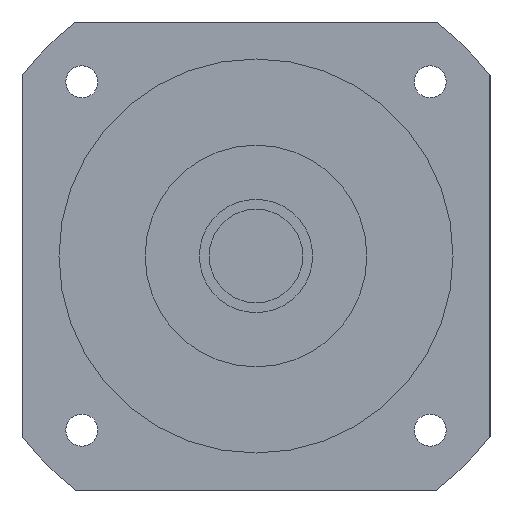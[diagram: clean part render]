
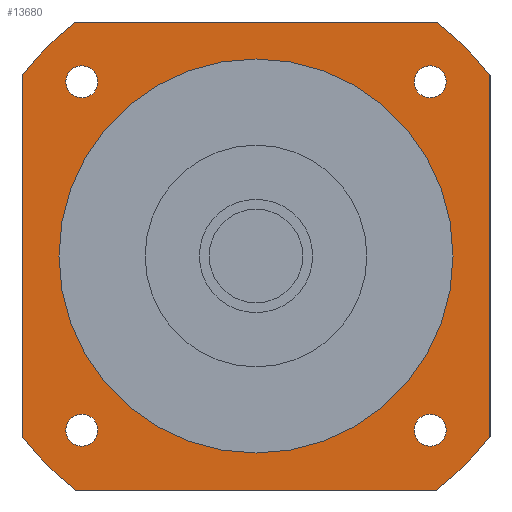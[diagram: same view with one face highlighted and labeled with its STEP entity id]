
A CAD part, left-side view. The second image highlights one B-rep face of the part: STEP entity #13680.
In plain terms, the highlighted planar face has unit normal (-1, 0, 0) as drawn and (0, 0, -1) by its records, which use the part's own axes.
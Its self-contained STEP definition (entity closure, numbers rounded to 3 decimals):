
#8870=CARTESIAN_POINT('',(47.5,36.657,-43.2));
#8880=VERTEX_POINT('',#8870);
#8930=CARTESIAN_POINT('',(47.5,47.5,-43.2));
#8940=DIRECTION('',(0.,-1.,0.));
#8950=VECTOR('',#8940,1000.);
#8960=LINE('',#8930,#8950);
#8970=CARTESIAN_POINT('',(47.5,-36.657,-43.2));
#8980=VERTEX_POINT('',#8970);
#8990=EDGE_CURVE('',#8880,#8980,#8960,.T.);
#9270=CARTESIAN_POINT('',(-36.657,47.5,-43.2));
#9280=VERTEX_POINT('',#9270);
#9460=CARTESIAN_POINT('',(-47.5,36.657,-43.2));
#9470=VERTEX_POINT('',#9460);
#9500=CARTESIAN_POINT('',(0.,0.,
-43.2));
#9510=DIRECTION('',(0.,0.,-1.));
#9520=DIRECTION('',(1.,0.,0.));
#9530=AXIS2_PLACEMENT_3D('',#9500,#9510,#9520);
#9540=CIRCLE('',#9530,60.);
#9550=EDGE_CURVE('',#9470,#9280,#9540,.T.);
#12200=CARTESIAN_POINT('',(-32.105,35.355,-43.2));
#12210=VERTEX_POINT('',#12200);
#12240=CARTESIAN_POINT('',(-35.355,35.355,-43.2));
#12250=DIRECTION('',(0.,0.,-1.));
#12260=DIRECTION('',(-1.,0.,0.));
#12270=AXIS2_PLACEMENT_3D('',#12240,#12250,#12260);
#12280=CIRCLE('',#12270,3.25);
#12290=CARTESIAN_POINT('',(-38.605,35.355,-43.2));
#12300=VERTEX_POINT('',#12290);
#12310=EDGE_CURVE('',#12300,#12210,#12280,.T.);
#12430=CARTESIAN_POINT('',(47.5,47.5,-43.2));
#12440=DIRECTION('',(0.,0.,-1.));
#12450=DIRECTION('',(1.,0.,0.));
#12460=AXIS2_PLACEMENT_3D('',#12430,#12440,#12450);
#12470=PLANE('',#12460);
#12480=ORIENTED_EDGE('',*,*,#12310,.F.);
#12490=EDGE_CURVE('',#12210,#12300,#12280,.T.);
#12500=ORIENTED_EDGE('',*,*,#12490,.F.);
#12510=EDGE_LOOP('',(#12500,#12480));
#12520=FACE_BOUND('',#12510,.T.);
#12530=CARTESIAN_POINT('',(35.355,35.355,-43.2));
#12540=DIRECTION('',(0.,0.,-1.));
#12550=DIRECTION('',(0.,1.,0.));
#12560=AXIS2_PLACEMENT_3D('',#12530,#12540,#12550);
#12570=CIRCLE('',#12560,3.25);
#12580=CARTESIAN_POINT('',(35.355,38.605,-43.2));
#12590=VERTEX_POINT('',#12580);
#12600=CARTESIAN_POINT('',(35.355,32.105,-43.2));
#12610=VERTEX_POINT('',#12600);
#12620=EDGE_CURVE('',#12590,#12610,#12570,.T.);
#12630=ORIENTED_EDGE('',*,*,#12620,.F.);
#12640=EDGE_CURVE('',#12610,#12590,#12570,.T.);
#12650=ORIENTED_EDGE('',*,*,#12640,.F.);
#12660=EDGE_LOOP('',(#12650,#12630));
#12670=FACE_BOUND('',#12660,.T.);
#12680=CARTESIAN_POINT('',(0.,0.,
-43.2));
#12690=DIRECTION('',(0.,0.,1.));
#12700=DIRECTION('',(0.,1.,0.));
#12710=AXIS2_PLACEMENT_3D('',#12680,#12690,#12700);
#12720=CIRCLE('',#12710,40.);
#12730=CARTESIAN_POINT('',(-40.,0.,-43.2));
#12740=VERTEX_POINT('',#12730);
#12750=CARTESIAN_POINT('',(40.,0.,-43.2));
#12760=VERTEX_POINT('',#12750);
#12770=EDGE_CURVE('',#12740,#12760,#12720,.T.);
#12780=ORIENTED_EDGE('',*,*,#12770,.T.);
#12790=CARTESIAN_POINT('',(0.,40.,-43.2));
#12800=VERTEX_POINT('',#12790);
#12810=EDGE_CURVE('',#12800,#12740,#12720,.T.);
#12820=ORIENTED_EDGE('',*,*,#12810,.T.);
#12830=EDGE_CURVE('',#12760,#12800,#12720,.T.);
#12840=ORIENTED_EDGE('',*,*,#12830,.T.);
#12850=EDGE_LOOP('',(#12840,#12820,#12780));
#12860=FACE_BOUND('',#12850,.T.);
#12870=CARTESIAN_POINT('',(35.355,-35.355,-43.2));
#12880=DIRECTION('',(0.,0.,-1.));
#12890=DIRECTION('',(1.,0.,0.));
#12900=AXIS2_PLACEMENT_3D('',#12870,#12880,#12890);
#12910=CIRCLE('',#12900,3.25);
#12920=CARTESIAN_POINT('',(38.605,-35.355,-43.2));
#12930=VERTEX_POINT('',#12920);
#12940=CARTESIAN_POINT('',(32.105,-35.355,-43.2));
#12950=VERTEX_POINT('',#12940);
#12960=EDGE_CURVE('',#12930,#12950,#12910,.T.);
#12970=ORIENTED_EDGE('',*,*,#12960,.F.);
#12980=EDGE_CURVE('',#12950,#12930,#12910,.T.);
#12990=ORIENTED_EDGE('',*,*,#12980,.F.);
#13000=EDGE_LOOP('',(#12990,#12970));
#13010=FACE_BOUND('',#13000,.T.);
#13020=CARTESIAN_POINT('',(-35.355,-35.355,-43.2));
#13030=DIRECTION('',(0.,0.,-1.));
#13040=DIRECTION('',(0.,-1.,0.));
#13050=AXIS2_PLACEMENT_3D('',#13020,#13030,#13040);
#13060=CIRCLE('',#13050,3.25);
#13070=CARTESIAN_POINT('',(-35.355,-38.605,-43.2));
#13080=VERTEX_POINT('',#13070);
#13090=CARTESIAN_POINT('',(-35.355,-32.105,-43.2));
#13100=VERTEX_POINT('',#13090);
#13110=EDGE_CURVE('',#13080,#13100,#13060,.T.);
#13120=ORIENTED_EDGE('',*,*,#13110,.F.);
#13130=EDGE_CURVE('',#13100,#13080,#13060,.T.);
#13140=ORIENTED_EDGE('',*,*,#13130,.F.);
#13150=EDGE_LOOP('',(#13140,#13120));
#13160=FACE_BOUND('',#13150,.T.);
#13170=CARTESIAN_POINT('',(-47.5,47.5,-43.2));
#13180=DIRECTION('',(1.,0.,0.));
#13190=VECTOR('',#13180,1000.);
#13200=LINE('',#13170,#13190);
#13210=CARTESIAN_POINT('',(36.657,47.5,-43.2));
#13220=VERTEX_POINT('',#13210);
#13230=EDGE_CURVE('',#9280,#13220,#13200,.T.);
#13240=ORIENTED_EDGE('',*,*,#13230,.T.);
#13250=ORIENTED_EDGE('',*,*,#9550,.T.);
#13260=CARTESIAN_POINT('',(-47.5,-47.5,-43.2));
#13270=DIRECTION('',(0.,1.,0.));
#13280=VECTOR('',#13270,1000.);
#13290=LINE('',#13260,#13280);
#13300=CARTESIAN_POINT('',(-47.5,-36.657,-43.2));
#13310=VERTEX_POINT('',#13300);
#13320=EDGE_CURVE('',#13310,#9470,#13290,.T.);
#13330=ORIENTED_EDGE('',*,*,#13320,.T.);
#13340=CARTESIAN_POINT('',(0.,0.,
-43.2));
#13350=DIRECTION('',(0.,0.,-1.));
#13360=DIRECTION('',(1.,0.,0.));
#13370=AXIS2_PLACEMENT_3D('',#13340,#13350,#13360);
#13380=CIRCLE('',#13370,60.);
#13390=CARTESIAN_POINT('',(-36.657,-47.5,-43.2));
#13400=VERTEX_POINT('',#13390);
#13410=EDGE_CURVE('',#13400,#13310,#13380,.T.);
#13420=ORIENTED_EDGE('',*,*,#13410,.T.);
#13430=CARTESIAN_POINT('',(47.5,-47.5,-43.2));
#13440=DIRECTION('',(-1.,0.,0.));
#13450=VECTOR('',#13440,1000.);
#13460=LINE('',#13430,#13450);
#13470=CARTESIAN_POINT('',(36.657,-47.5,-43.2));
#13480=VERTEX_POINT('',#13470);
#13490=EDGE_CURVE('',#13480,#13400,#13460,.T.);
#13500=ORIENTED_EDGE('',*,*,#13490,.T.);
#13510=CARTESIAN_POINT('',(0.,0.,
-43.2));
#13520=DIRECTION('',(0.,0.,-1.));
#13530=DIRECTION('',(1.,0.,0.));
#13540=AXIS2_PLACEMENT_3D('',#13510,#13520,#13530);
#13550=CIRCLE('',#13540,60.);
#13560=EDGE_CURVE('',#8980,#13480,#13550,.T.);
#13570=ORIENTED_EDGE('',*,*,#13560,.T.);
#13580=ORIENTED_EDGE('',*,*,#8990,.T.);
#13590=CARTESIAN_POINT('',(0.,0.,
-43.2));
#13600=DIRECTION('',(0.,0.,-1.));
#13610=DIRECTION('',(1.,0.,0.));
#13620=AXIS2_PLACEMENT_3D('',#13590,#13600,#13610);
#13630=CIRCLE('',#13620,60.);
#13640=EDGE_CURVE('',#13220,#8880,#13630,.T.);
#13650=ORIENTED_EDGE('',*,*,#13640,.T.);
#13660=EDGE_LOOP('',(#13650,#13580,#13570,#13500,#13420,#13330,#13250,
#13240));
#13670=FACE_OUTER_BOUND('',#13660,.T.);
#13680=ADVANCED_FACE('',(#12520,#12670,#12860,#13010,#13160,#13670),
#12470,.T.);
